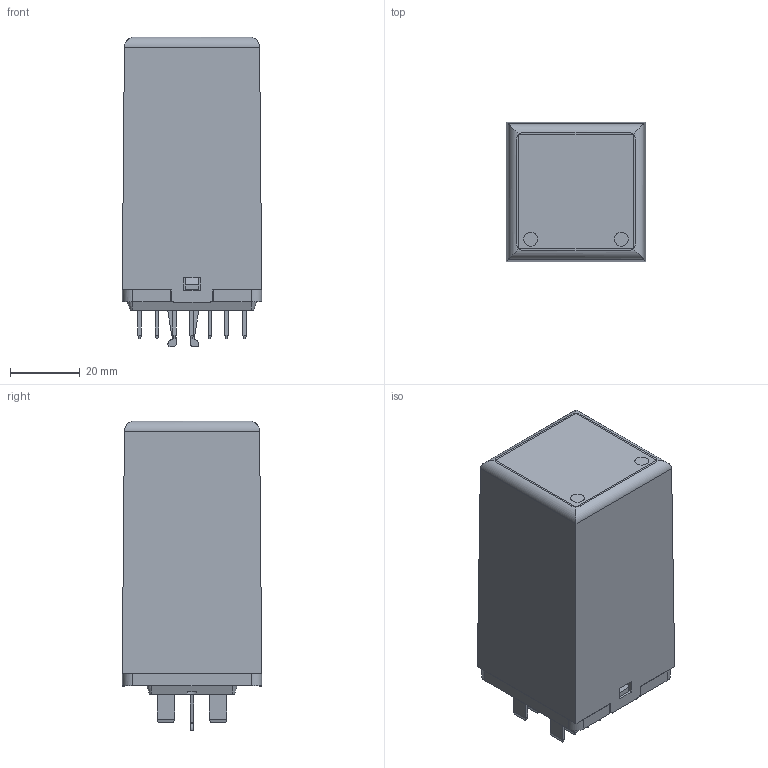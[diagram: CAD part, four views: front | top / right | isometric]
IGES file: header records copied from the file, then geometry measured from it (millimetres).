
Global section: file name: No Iges File Name specified; native system: Autodesk Inventor 2011; preprocessor: AutoDesk Inventor Iges Exporter R2011; author: oey; date: 20110308.143154; units: millimetre
Bounding box: 40 x 40.06 x 88.85 mm (x, y, z)
Volume: 31426.1 mm3; surface area: 37926.1 mm2
Topology: 1 solids, 3 shells, 1565 faces, 4725 edges, 3092 vertices
Faces by surface type: plane 673, bspline 538, revolution 160, cylinder 156, sphere 28, cone 6, torus 4
